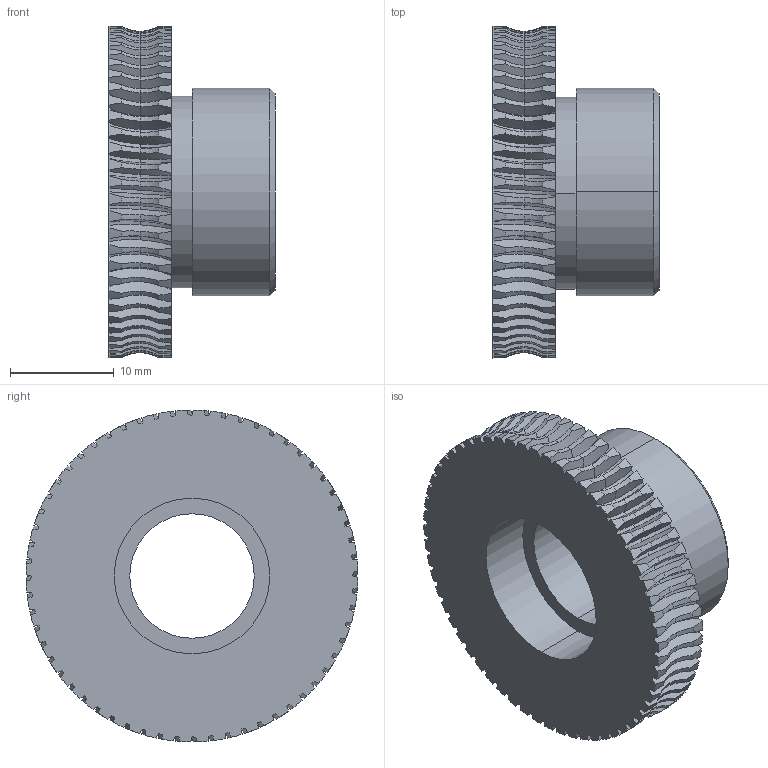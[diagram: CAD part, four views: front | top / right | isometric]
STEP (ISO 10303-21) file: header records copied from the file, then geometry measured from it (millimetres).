
FILE_DESCRIPTION (( 'STEP AP203' ), '1' );
FILE_NAME ('AMXY.09.02.1273 - Êîëåñî ÷åðâÿ÷íîå.STEP', '2024-04-25T12:28:41', ( 'user' ), ( '' ), 'SwSTEP 2.0', 'SolidWorks 2022', '' );
FILE_SCHEMA (( 'CONFIG_CONTROL_DESIGN' ));
Length unit declared in the file: millimetre
Products named in the file (1): AMXY.09.02.1273 - Êîëåñî ÷åðâÿ÷íîå
Bounding box: 16 x 32 x 32 mm (x, y, z)
Volume: 5034.3 mm3; surface area: 3900.6 mm2
Topology: 1 solids, 1 shells, 550 faces, 1574 edges, 1030 vertices
Faces by surface type: cylinder 246, cone 178, torus 120, plane 6
Entity records: 19625 total; most frequent: CARTESIAN_POINT 6563, ORIENTED_EDGE 3148, DIRECTION 2334, EDGE_CURVE 1574, AXIS2_PLACEMENT_3D 1105, VERTEX_POINT 1030, B_SPLINE_CURVE_WITH_KNOTS 776, EDGE_LOOP 556
